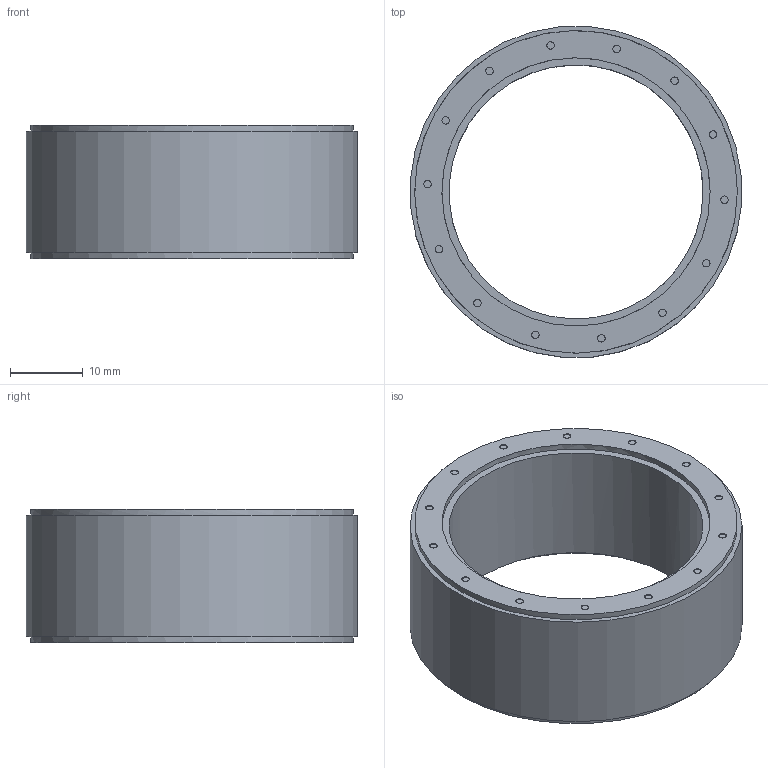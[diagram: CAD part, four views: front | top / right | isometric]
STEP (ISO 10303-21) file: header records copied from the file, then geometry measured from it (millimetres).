
FILE_DESCRIPTION(/* description */ (''),/* implementation_level */ '2;1');
FILE_NAME(/* name */ 'IB-B4BZA.stp',/* time_stamp */ '2023-12-27T18:25:39+09:00',/* author */ (''),/* organization */ (''),/* preprocessor_version */ 'ST-DEVELOPER v18.101',/* originating_system */ 'SIEMENS PLM Software NX 2011',/* authorisation */ '');
FILE_SCHEMA (('AUTOMOTIVE_DESIGN { 1 0 10303 214 3 1 1 1 }'));
Length unit declared in the file: millimetre
Products named in the file (1): IB-B4BZA
Bounding box: 45.67 x 45.67 x 18.4 mm (x, y, z)
Volume: 12253.2 mm3; surface area: 6052.8 mm2
Topology: 1 solids, 1 shells, 68 faces, 144 edges, 148 vertices
Faces by surface type: cylinder 34, plane 34
Full cylindrical faces by diameter (mm): 1.025 x28, 35.031 x1, 37 x2, 44.5 x2, 45.8 x1
Entity records: 1801 total; most frequent: DIRECTION 323, CARTESIAN_POINT 285, AXIS2_PLACEMENT_3D 150, EDGE_LOOP 136, ORIENTED_EDGE 136, FACE_BOUND 108, CIRCLE 81, ADVANCED_FACE 68
